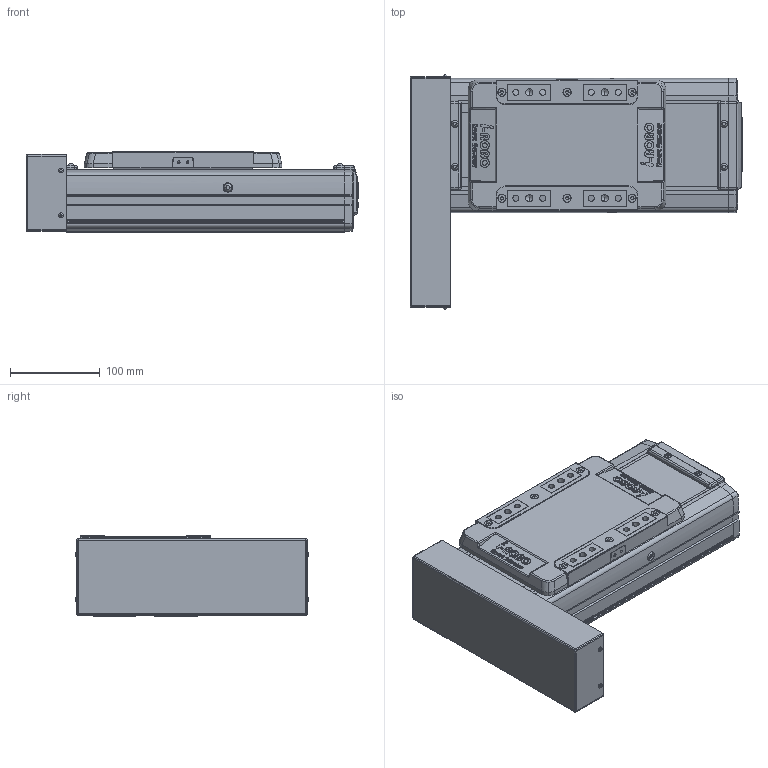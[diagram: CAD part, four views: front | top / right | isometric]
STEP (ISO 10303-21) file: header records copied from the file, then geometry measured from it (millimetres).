
FILE_DESCRIPTION(('STEP AP214'),'1');
FILE_NAME('Z:/Web/3D/SAN150/2013.04 (STP.)/SAN150ㅁㅁ-50PR.stp','2013-05-08T03:00:48',(' '),(' '),'Spatial InterOp 3D',' ',' ');
FILE_SCHEMA(('automotive_design'));
Length unit declared in the file: millimetre
Products named in the file (38): SLBL-SAN150; SLCV-SAN150; FHCS M4.0 x 8.0; BHCS M4.0 x 10.0; SFX-SAN150; RRCV-SAN150; FRBL-SAN150; Spacer; RN15; FRCV-SAN150; Screw 20; BASE-SAN150-000L ; SUS COVER; 스크루 : Round - M5.0 x 6.0; BHCS M3.0 x 6.0; P
Bounding box: 370 x 260.73 x 90 mm (x, y, z)
Volume: 3481323.2 mm3; surface area: 564474.2 mm2
Topology: 38 solids, 38 shells, 1975 faces, 5067 edges, 3236 vertices
Faces by surface type: plane 997, cylinder 683, cone 206, sphere 56, bspline 21, torus 12
Entity records: 77766 total; most frequent: CARTESIAN_POINT 12274, DIRECTION 10732, ORIENTED_EDGE 9942, EDGE_CURVE 4971, AXIS2_PLACEMENT_3D 3829, VERTEX_POINT 3236, LINE 3074, VECTOR 3074
